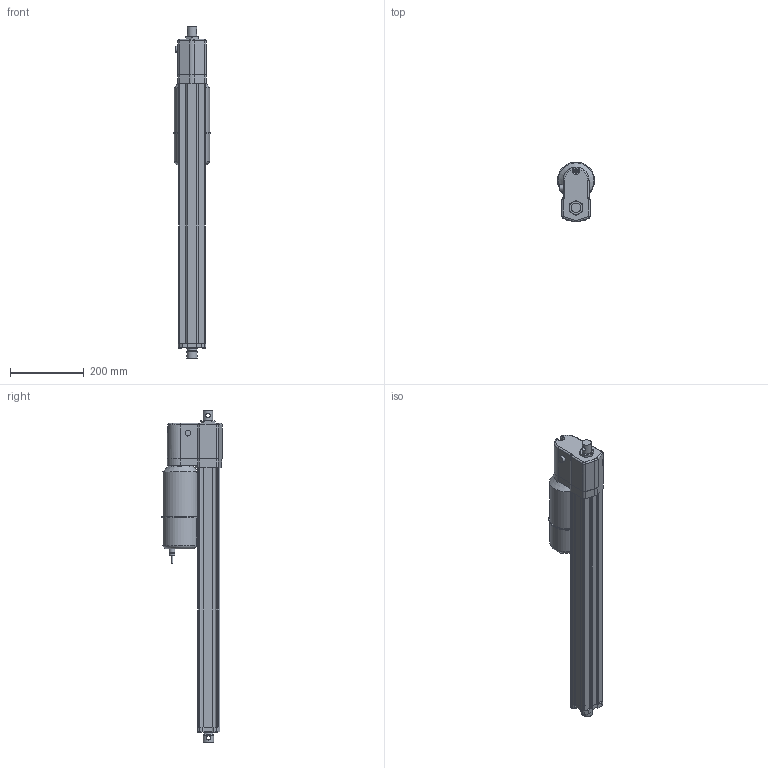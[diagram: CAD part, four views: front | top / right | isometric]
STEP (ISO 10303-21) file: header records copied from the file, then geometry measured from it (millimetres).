
FILE_DESCRIPTION (( 'STEP AP214' ), '1' );
FILE_NAME ('AA22-05A65M-60M0NPO-tollo.step', '2020-04-13T20:09:10', ( '' ), ( '' ), 'SwSTEP 2.0', 'SolidWorks 2010', '' );
FILE_SCHEMA (( 'AUTOMOTIVE_DESIGN' ));
Length unit declared in the file: millimetre
Products named in the file (8): Electrak-LA24-Motor-AA22-05A65M-60M0NPO-tollo_Electrak-LA24-Motor-AA22-05A65M-60M0NPO-tollo; Electrak-LA24-Rear-AA22-05A65M-60M0NPO-tollo_Electrak-LA24-Rear-AA22-05A65M-60M0NPO-tollo; Electrak-LA24-Tube-AA22-05A65M-60M0NPO-tollo_Electrak-LA24-Tube-AA22-05A65M-60M0NPO-tollo; Electrak-LA24-Rod-AA22-05A65M-60M0NPO-tollo_Electrak-LA24-Rod-AA22-05A65M-60M0NPO-tollo; Electrak-LA24-Plate-AA22-05A65M-60M0NPO-tollo_Electrak-LA24-Plate-AA22-05A65M-60M0NPO-tollo; Screw-MFX-H-M5_Screw-MFX-H-M5x24H; Screw-M6S-M5-AA22-05A65M-60M0NPO-tollo_Screw-M6S-M5-AA22-05A65M-60M0NPO-tollo; AA22-05A65M-60M0NPO-tollo
Assembly tree (10 placements, depth 2):
  AA22-05A65M-60M0NPO-tollo
    Screw-M6S-M5-AA22-05A65M-60M0NPO-tollo_Screw-M6S-M5-AA22-05A65M-60M0NPO-tollo  x4
    Electrak-LA24-Rod-AA22-05A65M-60M0NPO-tollo_Electrak-LA24-Rod-AA22-05A65M-60M0NPO-tollo
    Electrak-LA24-Plate-AA22-05A65M-60M0NPO-tollo_Electrak-LA24-Plate-AA22-05A65M-60M0NPO-tollo
    Electrak-LA24-Rear-AA22-05A65M-60M0NPO-tollo_Electrak-LA24-Rear-AA22-05A65M-60M0NPO-tollo
    Screw-MFX-H-M5_Screw-MFX-H-M5x24H
    Electrak-LA24-Motor-AA22-05A65M-60M0NPO-tollo_Electrak-LA24-Motor-AA22-05A65M-60M0NPO-tollo
    Electrak-LA24-Tube-AA22-05A65M-60M0NPO-tollo_Electrak-LA24-Tube-AA22-05A65M-60M0NPO-tollo
Bounding box: 100.99 x 162.5 x 897.8 mm (x, y, z)
Volume: 3843243.3 mm3; surface area: 633184.6 mm2
Topology: 10 solids, 10 shells, 355 faces, 890 edges, 575 vertices
Faces by surface type: plane 175, cylinder 129, cone 31, torus 15, bspline 3, sphere 2
Full cylindrical faces by diameter (mm): 4 x1, 4.126 x5, 4.8 x6, 5 x5, 5.6 x4, 7.878 x4, 9.3 x1, 10 x1, 12.2 x2, 15 x2, 16 x1, 25.4 x1, 28.6 x4, 47.625 x1, 68 x1
Entity records: 9673 total; most frequent: CARTESIAN_POINT 2403, DIRECTION 1454, ORIENTED_EDGE 1342, EDGE_CURVE 671, AXIS2_PLACEMENT_3D 531, VERTEX_POINT 462, LINE 392, VECTOR 392
